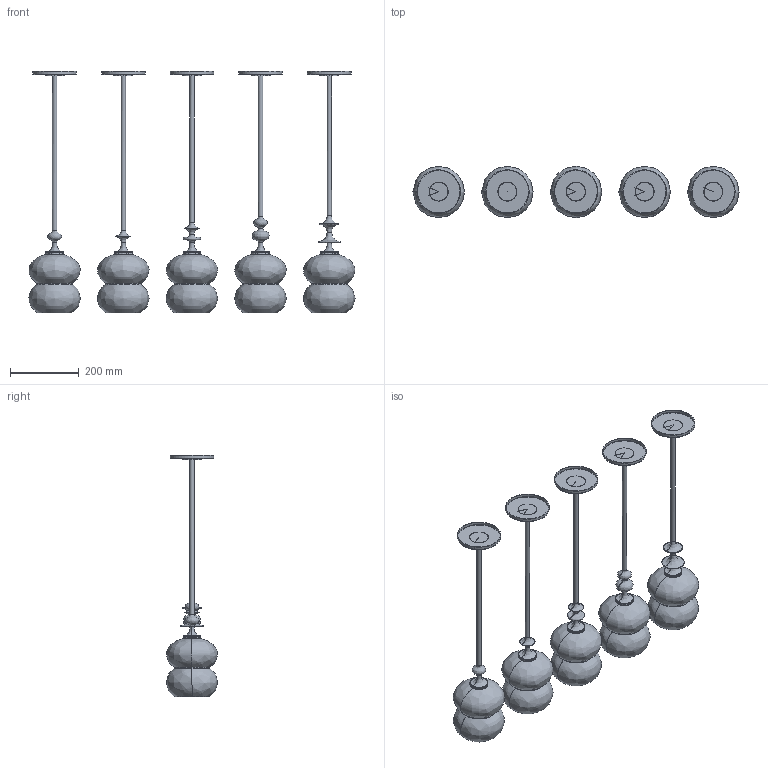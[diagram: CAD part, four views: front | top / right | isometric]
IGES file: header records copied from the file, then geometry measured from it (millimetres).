
Global section: file name: /Users/danielszollosi/Documents/SkLO/Sklo.com/3D models/WEB 3D Models/SkLO_AvroKO_OestrePendant_3D_LT606-610.igs; native system: Rhinoceros ( Dec  3 2024 ); preprocessor: Trout Lake IGES 012 Dec  3 2024; date: 250804.100857; units: millimetre
Bounding box: 949.97 x 150 x 704.52 mm (x, y, z)
Surface area: 1310694.7 mm2 (no closed solid volume)
Topology: 0 solids, 0 shells, 500 faces, 6329 edges, 5941 vertices
Faces by surface type: bspline 500
